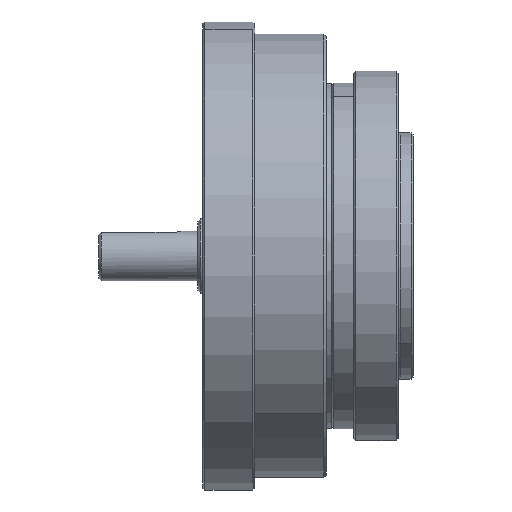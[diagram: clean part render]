
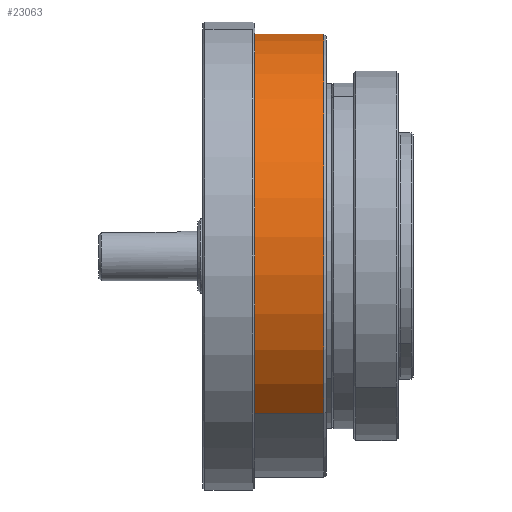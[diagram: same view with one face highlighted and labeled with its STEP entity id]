
A CAD part, front view. The second image highlights one B-rep face of the part: STEP entity #23063.
In plain terms, the highlighted cylindrical face has radius 45 mm (diameter 90 mm), a partial arc.
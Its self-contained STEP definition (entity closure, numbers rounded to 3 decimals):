
#535 = DIRECTION ( 'NONE',  ( 0., 0.707, 0.707 ) ) ;
#1328 = DIRECTION ( 'NONE',  ( -1., 0., 0. ) ) ;
#1890 = LINE ( 'NONE', #14466, #12888 ) ;
#2030 = CIRCLE ( 'NONE', #27789, 45. ) ;
#2505 = CARTESIAN_POINT ( 'NONE',  ( -32.5, -31.82, -31.82 ) ) ;
#2890 = ORIENTED_EDGE ( 'NONE', *, *, #6969, .T. ) ;
#3629 = CARTESIAN_POINT ( 'NONE',  ( -32.5, 0., 0. ) ) ;
#3777 = VERTEX_POINT ( 'NONE', #22343 ) ;
#3824 = CARTESIAN_POINT ( 'NONE',  ( -89.314, 0., 0. ) ) ;
#4150 = AXIS2_PLACEMENT_3D ( 'NONE', #3824, #6134, #28044 ) ;
#4369 = VERTEX_POINT ( 'NONE', #26678 ) ;
#4396 = VERTEX_POINT ( 'NONE', #26768 ) ;
#5871 = DIRECTION ( 'NONE',  ( 0., -0.707, -0.707 ) ) ;
#6134 = DIRECTION ( 'NONE',  ( -1., 0., 0. ) ) ;
#6369 = VERTEX_POINT ( 'NONE', #2505 ) ;
#6640 = EDGE_CURVE ( 'NONE', #4396, #6369, #2030, .T. ) ;
#6969 = EDGE_CURVE ( 'NONE', #4369, #3777, #10599, .T. ) ;
#7537 = EDGE_LOOP ( 'NONE', ( #8196, #2890, #27266, #17831 ) ) ;
#8196 = ORIENTED_EDGE ( 'NONE', *, *, #13809, .F. ) ;
#8967 = CYLINDRICAL_SURFACE ( 'NONE', #4150, 45. ) ;
#9074 = EDGE_CURVE ( 'NONE', #3777, #4396, #1890, .T. ) ;
#10599 = CIRCLE ( 'NONE', #19430, 45. ) ;
#11534 = DIRECTION ( 'NONE',  ( -1., 0., 0. ) ) ;
#12888 = VECTOR ( 'NONE', #1328, 1000. ) ;
#13691 = DIRECTION ( 'NONE',  ( -1., 0., 0. ) ) ;
#13809 = EDGE_CURVE ( 'NONE', #4369, #6369, #17801, .T. ) ;
#14466 = CARTESIAN_POINT ( 'NONE',  ( -89.314, 31.82, 31.82 ) ) ;
#17801 = LINE ( 'NONE', #24705, #19185 ) ;
#17831 = ORIENTED_EDGE ( 'NONE', *, *, #6640, .T. ) ;
#19032 = DIRECTION ( 'NONE',  ( 1., 0., 0. ) ) ;
#19185 = VECTOR ( 'NONE', #11534, 1000. ) ;
#19430 = AXIS2_PLACEMENT_3D ( 'NONE', #26892, #13691, #535 ) ;
#22343 = CARTESIAN_POINT ( 'NONE',  ( -16., 31.82, 31.82 ) ) ;
#23063 = ADVANCED_FACE ( 'NONE', ( #26529 ), #8967, .T. ) ;
#24705 = CARTESIAN_POINT ( 'NONE',  ( -89.314, -31.82, -31.82 ) ) ;
#26529 = FACE_OUTER_BOUND ( 'NONE', #7537, .T. ) ;
#26678 = CARTESIAN_POINT ( 'NONE',  ( -16., -31.82, -31.82 ) ) ;
#26768 = CARTESIAN_POINT ( 'NONE',  ( -32.5, 31.82, 31.82 ) ) ;
#26892 = CARTESIAN_POINT ( 'NONE',  ( -16., 0., 0. ) ) ;
#27266 = ORIENTED_EDGE ( 'NONE', *, *, #9074, .T. ) ;
#27789 = AXIS2_PLACEMENT_3D ( 'NONE', #3629, #19032, #5871 ) ;
#28044 = DIRECTION ( 'NONE',  ( 0., 0.707, 0.707 ) ) ;
